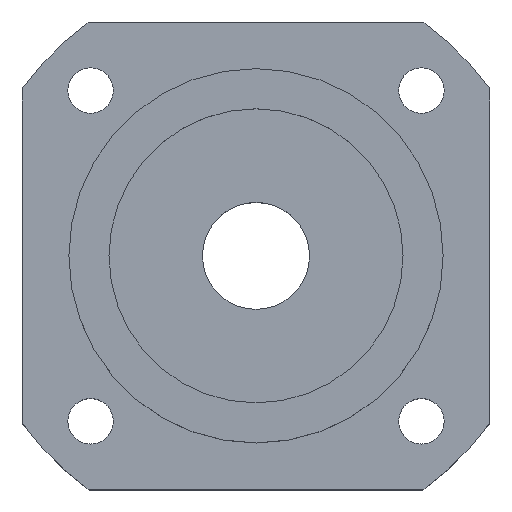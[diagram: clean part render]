
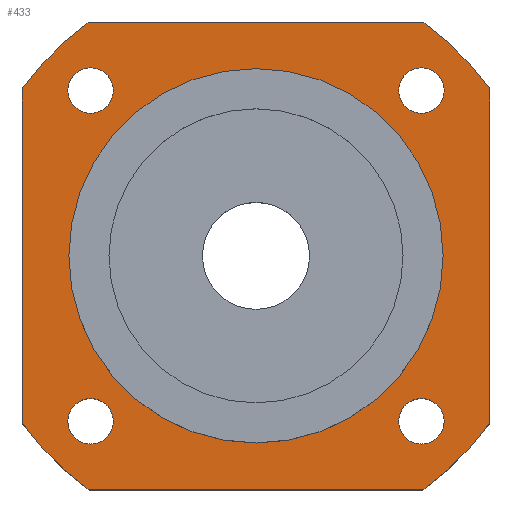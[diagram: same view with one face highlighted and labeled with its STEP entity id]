
A CAD part, top view. The second image highlights one B-rep face of the part: STEP entity #433.
In plain terms, the highlighted planar face has unit normal (0, 0, 1).
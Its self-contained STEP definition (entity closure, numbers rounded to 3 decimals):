
#16=LINE($,#720,#32);
#20=LINE($,#732,#36);
#24=LINE($,#744,#40);
#28=LINE($,#754,#44);
#32=VECTOR($,#598,24.98);
#36=VECTOR($,#610,24.98);
#40=VECTOR($,#622,24.98);
#44=VECTOR($,#634,24.98);
#56=PLANE($,#497);
#80=FACE_BOUND($,#162,.T.);
#81=FACE_BOUND($,#163,.T.);
#82=FACE_BOUND($,#164,.T.);
#83=FACE_BOUND($,#165,.T.);
#84=FACE_BOUND($,#166,.T.);
#85=FACE_BOUND($,#167,.T.);
#162=EDGE_LOOP($,(#364));
#163=EDGE_LOOP($,(#365));
#164=EDGE_LOOP($,(#366));
#165=EDGE_LOOP($,(#367));
#166=EDGE_LOOP($,(#368));
#167=EDGE_LOOP($,(#369,#370,#371,#372,#373,#374,#375,#376));
#183=CIRCLE($,#455,1.7);
#187=CIRCLE($,#462,1.7);
#191=CIRCLE($,#469,1.7);
#195=CIRCLE($,#476,1.7);
#197=CIRCLE($,#479,14.);
#199=CIRCLE($,#483,21.5);
#201=CIRCLE($,#487,21.5);
#203=CIRCLE($,#491,21.5);
#205=CIRCLE($,#495,21.5);
#215=VERTEX_POINT($,#666);
#219=VERTEX_POINT($,#677);
#223=VERTEX_POINT($,#688);
#227=VERTEX_POINT($,#699);
#229=VERTEX_POINT($,#704);
#232=VERTEX_POINT($,#711);
#233=VERTEX_POINT($,#713);
#235=VERTEX_POINT($,#719);
#237=VERTEX_POINT($,#725);
#239=VERTEX_POINT($,#731);
#241=VERTEX_POINT($,#737);
#243=VERTEX_POINT($,#743);
#245=VERTEX_POINT($,#749);
#255=EDGE_CURVE($,#215,#215,#183,.T.);
#259=EDGE_CURVE($,#219,#219,#187,.T.);
#263=EDGE_CURVE($,#223,#223,#191,.T.);
#267=EDGE_CURVE($,#227,#227,#195,.T.);
#269=EDGE_CURVE($,#229,#229,#197,.T.);
#272=EDGE_CURVE($,#233,#232,#199,.T.);
#275=EDGE_CURVE($,#235,#233,#16,.T.);
#278=EDGE_CURVE($,#237,#235,#201,.T.);
#281=EDGE_CURVE($,#239,#237,#20,.T.);
#284=EDGE_CURVE($,#241,#239,#203,.T.);
#287=EDGE_CURVE($,#243,#241,#24,.T.);
#290=EDGE_CURVE($,#245,#243,#205,.T.);
#293=EDGE_CURVE($,#232,#245,#28,.T.);
#364=ORIENTED_EDGE($,*,*,#255,.T.);
#365=ORIENTED_EDGE($,*,*,#259,.T.);
#366=ORIENTED_EDGE($,*,*,#263,.T.);
#367=ORIENTED_EDGE($,*,*,#267,.T.);
#368=ORIENTED_EDGE($,*,*,#269,.T.);
#369=ORIENTED_EDGE($,*,*,#293,.T.);
#370=ORIENTED_EDGE($,*,*,#290,.T.);
#371=ORIENTED_EDGE($,*,*,#287,.T.);
#372=ORIENTED_EDGE($,*,*,#284,.T.);
#373=ORIENTED_EDGE($,*,*,#281,.T.);
#374=ORIENTED_EDGE($,*,*,#278,.T.);
#375=ORIENTED_EDGE($,*,*,#275,.T.);
#376=ORIENTED_EDGE($,*,*,#272,.T.);
#433=ADVANCED_FACE($,(#80,#81,#82,#83,#84,#85),#56,.T.);
#455=AXIS2_PLACEMENT_3D($,#667,#535,#536);
#462=AXIS2_PLACEMENT_3D($,#678,#549,#550);
#469=AXIS2_PLACEMENT_3D($,#689,#563,#564);
#476=AXIS2_PLACEMENT_3D($,#700,#577,#578);
#479=AXIS2_PLACEMENT_3D($,#705,#583,#584);
#483=AXIS2_PLACEMENT_3D($,#714,#592,#593);
#487=AXIS2_PLACEMENT_3D($,#726,#604,#605);
#491=AXIS2_PLACEMENT_3D($,#738,#616,#617);
#495=AXIS2_PLACEMENT_3D($,#750,#628,#629);
#497=AXIS2_PLACEMENT_3D($,#755,#635,#636);
#535=DIRECTION('center_axis',(0.,0.,-1.));
#536=DIRECTION('ref_axis',(-1.,0.,0.));
#549=DIRECTION('center_axis',(0.,0.,-1.));
#550=DIRECTION('ref_axis',(-1.,0.,0.));
#563=DIRECTION('center_axis',(0.,0.,-1.));
#564=DIRECTION('ref_axis',(-1.,0.,0.));
#577=DIRECTION('center_axis',(0.,0.,-1.));
#578=DIRECTION('ref_axis',(-1.,0.,0.));
#583=DIRECTION('center_axis',(0.,0.,-1.));
#584=DIRECTION('ref_axis',(-1.,0.,0.));
#592=DIRECTION('center_axis',(0.,0.,1.));
#593=DIRECTION('ref_axis',(-0.581,0.814,0.));
#598=DIRECTION($,(-1.,0.,0.));
#604=DIRECTION('center_axis',(0.,0.,1.));
#605=DIRECTION('ref_axis',(0.814,0.581,0.));
#610=DIRECTION($,(0.,1.,0.));
#616=DIRECTION('center_axis',(0.,0.,1.));
#617=DIRECTION('ref_axis',(0.581,-0.814,0.));
#622=DIRECTION($,(1.,0.,0.));
#628=DIRECTION('center_axis',(0.,0.,1.));
#629=DIRECTION('ref_axis',(-0.814,-0.581,0.));
#634=DIRECTION($,(0.,-1.,0.));
#635=DIRECTION('center_axis',(0.,0.,1.));
#636=DIRECTION('ref_axis',(1.,0.,0.));
#666=CARTESIAN_POINT('',(-10.674,-12.374,7.));
#667=CARTESIAN_POINT('Origin',(-12.374,-12.374,7.));
#677=CARTESIAN_POINT('',(14.074,12.374,7.));
#678=CARTESIAN_POINT('Origin',(12.374,12.374,7.));
#688=CARTESIAN_POINT('',(14.074,-12.374,7.));
#689=CARTESIAN_POINT('Origin',(12.374,-12.374,7.));
#699=CARTESIAN_POINT('',(-10.674,12.374,7.));
#700=CARTESIAN_POINT('Origin',(-12.374,12.374,7.));
#704=CARTESIAN_POINT('',(14.,0.,7.));
#705=CARTESIAN_POINT('Origin',(0.,0.,7.));
#711=CARTESIAN_POINT('',(-17.5,12.49,7.));
#713=CARTESIAN_POINT('',(-12.49,17.5,7.));
#714=CARTESIAN_POINT('Origin',(0.,0.,7.));
#719=CARTESIAN_POINT('',(12.49,17.5,7.));
#720=CARTESIAN_POINT($,(12.49,17.5,7.));
#725=CARTESIAN_POINT('',(17.5,12.49,7.));
#726=CARTESIAN_POINT('Origin',(0.,0.,7.));
#731=CARTESIAN_POINT('',(17.5,-12.49,7.));
#732=CARTESIAN_POINT($,(17.5,-12.49,7.));
#737=CARTESIAN_POINT('',(12.49,-17.5,7.));
#738=CARTESIAN_POINT('Origin',(0.,0.,7.));
#743=CARTESIAN_POINT('',(-12.49,-17.5,7.));
#744=CARTESIAN_POINT($,(-12.49,-17.5,7.));
#749=CARTESIAN_POINT('',(-17.5,-12.49,7.));
#750=CARTESIAN_POINT('Origin',(0.,0.,7.));
#754=CARTESIAN_POINT($,(-17.5,12.49,7.));
#755=CARTESIAN_POINT('Origin',(0.,0.,
7.));
